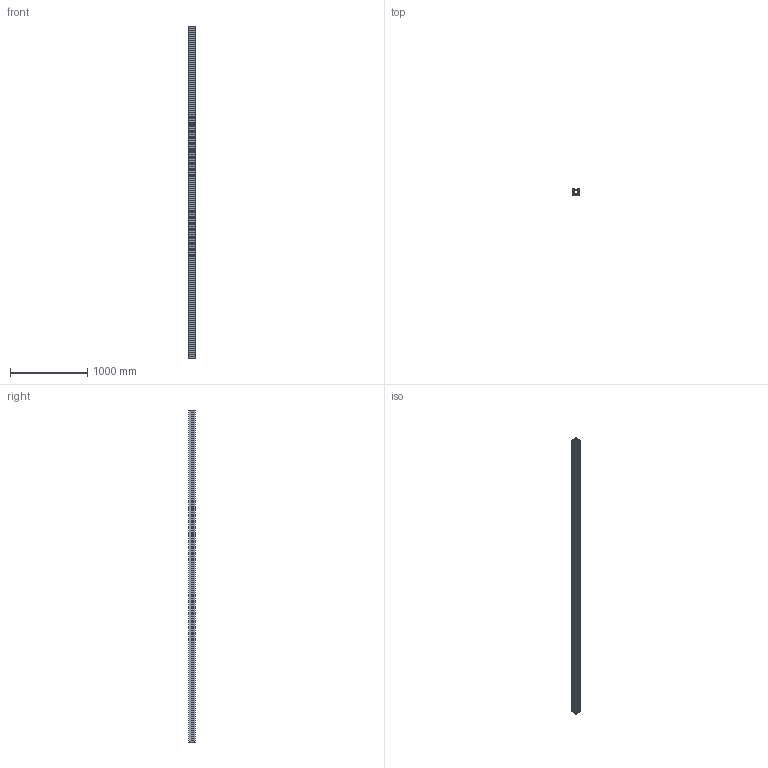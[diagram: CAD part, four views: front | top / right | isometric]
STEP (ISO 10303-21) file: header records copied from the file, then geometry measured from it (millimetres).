
FILE_DESCRIPTION (( 'STEP AP203' ), '1' );
FILE_NAME ('_-_MLF 4 4298 mm lang.step', '2005-09-01T12:47:07', ( ' ' ), ( ' ' ), 'SwSTEP 2.0', 'SolidWorks 2005187', '' );
FILE_SCHEMA (( 'CONFIG_CONTROL_DESIGN' ));
Length unit declared in the file: millimetre
Products named in the file (1): _-_MLF 4  4298 mm lang
Bounding box: 87.59 x 80 x 4298 mm (x, y, z)
Volume: 9903499.3 mm3; surface area: 5306973.1 mm2
Topology: 1 solids, 1 shells, 248 faces, 762 edges, 500 vertices
Faces by surface type: plane 174, cylinder 74
Entity records: 8575 total; most frequent: ORIENTED_EDGE 1524, CARTESIAN_POINT 1511, DIRECTION 1408, EDGE_CURVE 762, VECTOR 614, LINE 614, VERTEX_POINT 500, AXIS2_PLACEMENT_3D 397
